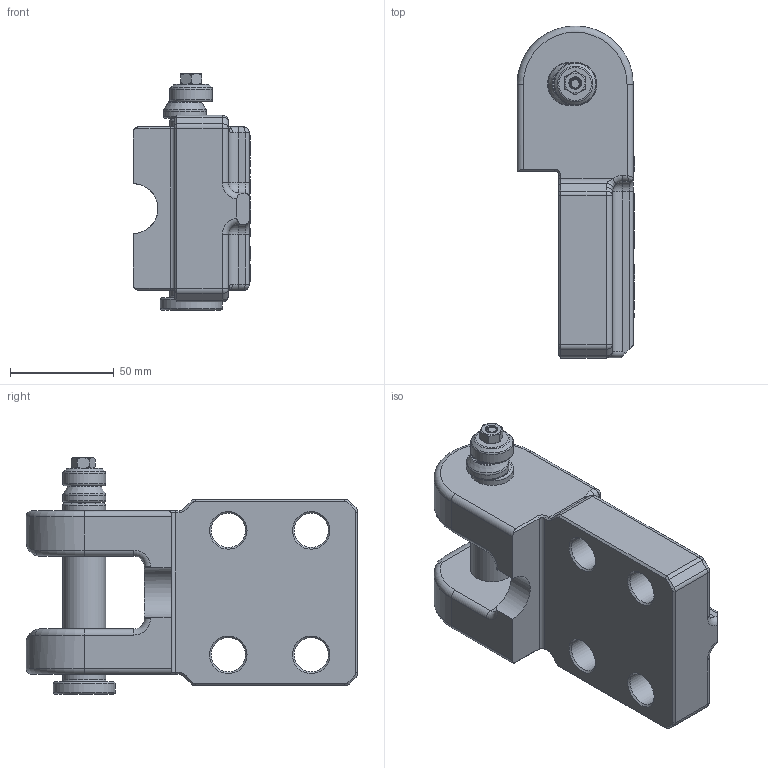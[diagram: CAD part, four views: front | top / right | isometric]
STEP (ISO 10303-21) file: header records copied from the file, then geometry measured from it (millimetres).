
FILE_DESCRIPTION(/* description */ (''),/* implementation_level */ '2;1');
FILE_NAME(/* name */ '2133.12.021.stp',/* time_stamp */ '2025-04-02T14:15:59+08:00',/* author */ (''),/* organization */ (''),/* preprocessor_version */ 'ST-DEVELOPER v16',/* originating_system */ 'SIEMENS PLM Software NX 10.0',/* authorisation */ '');
FILE_SCHEMA (('AP203_CONFIGURATION_CONTROLLED_3D_DESIGN_OF_MECHANICAL_PARTS_AND_ASSEMBLIES_MIM_LF { 1 0 10303 403 2 1 2}'));
Length unit declared in the file: millimetre
Products named in the file (1): Admi177C9AD32ikq
Bounding box: 56.8 x 160 x 114 mm (x, y, z)
Volume: 403900.4 mm3; surface area: 63893 mm2
Topology: 5 solids, 5 shells, 903 faces, 2371 edges, 1537 vertices
Faces by surface type: extrusion 375, plane 345, cylinder 99, torus 31, cone 28, bspline 17, sphere 8
Full cylindrical faces by diameter (mm): 7 x1, 14 x1, 16.5 x4, 20.6 x3, 21 x2, 30 x1
Entity records: 39893 total; most frequent: CARTESIAN_POINT 19735, ORIENTED_EDGE 4586, DIRECTION 2952, EDGE_CURVE 2293, VERTEX_POINT 1516, VECTOR 1410, B_SPLINE_CURVE_WITH_KNOTS 1372, LINE 1035
